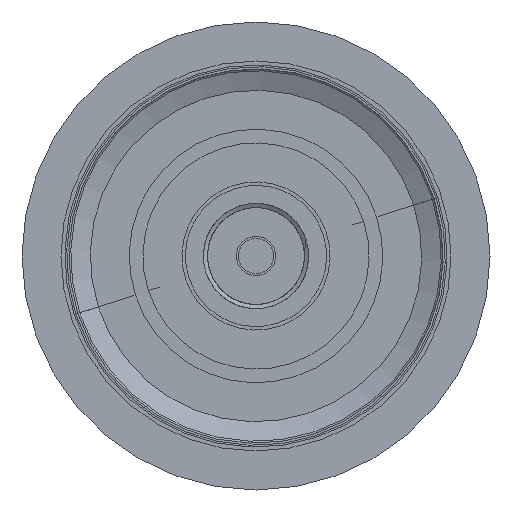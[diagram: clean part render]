
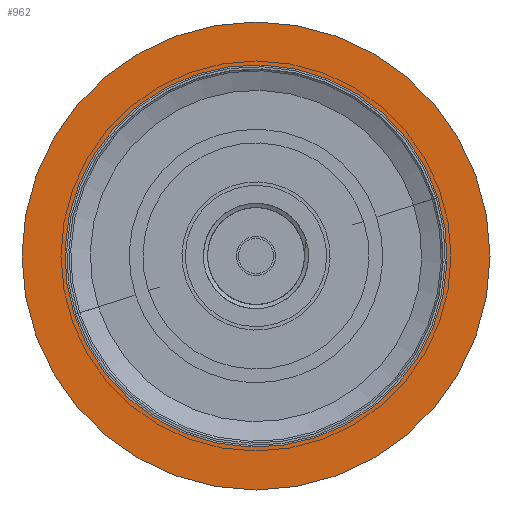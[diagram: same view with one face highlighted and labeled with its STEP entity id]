
A CAD part, front view. The second image highlights one B-rep face of the part: STEP entity #962.
In plain terms, the highlighted planar face has unit normal (0, -1, 0).
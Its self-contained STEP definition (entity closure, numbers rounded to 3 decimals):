
#49 = CARTESIAN_POINT ( 'NONE',  ( 0., -2., 0. ) ) ;
#194 = DIRECTION ( 'NONE',  ( 0., -1., 0. ) ) ;
#294 = AXIS2_PLACEMENT_3D ( 'NONE', #49, #3458, #2623 ) ;
#301 = VERTEX_POINT ( 'NONE', #2149 ) ;
#430 = CIRCLE ( 'NONE', #2901, 60. ) ;
#527 = CARTESIAN_POINT ( 'NONE',  ( 0., -2., 6. ) ) ;
#681 = EDGE_CURVE ( 'NONE', #2372, #301, #430, .T. ) ;
#695 = DIRECTION ( 'NONE',  ( 0., -1., 0. ) ) ;
#832 = VERTEX_POINT ( 'NONE', #527 ) ;
#878 = VERTEX_POINT ( 'NONE', #3718 ) ;
#897 = CARTESIAN_POINT ( 'NONE',  ( 0., -2., 60. ) ) ;
#909 = DIRECTION ( 'NONE',  ( 0., 0., -1. ) ) ;
#946 = PLANE ( 'NONE',  #1095 ) ;
#962 = ADVANCED_FACE ( 'NONE', ( #2959, #3282 ), #946, .T. ) ;
#964 = CIRCLE ( 'NONE', #3687, 6. ) ;
#979 = DIRECTION ( 'NONE',  ( 0., 0., -1. ) ) ;
#1056 = DIRECTION ( 'NONE',  ( 0., 0., -1. ) ) ;
#1095 = AXIS2_PLACEMENT_3D ( 'NONE', #3521, #695, #909 ) ;
#1103 = ORIENTED_EDGE ( 'NONE', *, *, #1330, .F. ) ;
#1273 = CARTESIAN_POINT ( 'NONE',  ( 0., -2., 0. ) ) ;
#1330 = EDGE_CURVE ( 'NONE', #878, #832, #3173, .T. ) ;
#1374 = DIRECTION ( 'NONE',  ( 0., 0., -1. ) ) ;
#1731 = EDGE_LOOP ( 'NONE', ( #2214, #1103 ) ) ;
#1923 = CARTESIAN_POINT ( 'NONE',  ( 0., -2., 0. ) ) ;
#2149 = CARTESIAN_POINT ( 'NONE',  ( 0., -2., -60. ) ) ;
#2214 = ORIENTED_EDGE ( 'NONE', *, *, #2456, .F. ) ;
#2372 = VERTEX_POINT ( 'NONE', #897 ) ;
#2456 = EDGE_CURVE ( 'NONE', #832, #878, #964, .T. ) ;
#2494 = DIRECTION ( 'NONE',  ( 0., -1., 0. ) ) ;
#2623 = DIRECTION ( 'NONE',  ( 0., 0., -1. ) ) ;
#2628 = AXIS2_PLACEMENT_3D ( 'NONE', #2712, #194, #979 ) ;
#2712 = CARTESIAN_POINT ( 'NONE',  ( 0., -2., 0. ) ) ;
#2735 = ORIENTED_EDGE ( 'NONE', *, *, #3049, .T. ) ;
#2901 = AXIS2_PLACEMENT_3D ( 'NONE', #1273, #2494, #1056 ) ;
#2959 = FACE_BOUND ( 'NONE', #1731, .T. ) ;
#3013 = ORIENTED_EDGE ( 'NONE', *, *, #681, .T. ) ;
#3049 = EDGE_CURVE ( 'NONE', #301, #2372, #3559, .T. ) ;
#3061 = DIRECTION ( 'NONE',  ( 0., -1., 0. ) ) ;
#3173 = CIRCLE ( 'NONE', #2628, 6. ) ;
#3213 = EDGE_LOOP ( 'NONE', ( #3013, #2735 ) ) ;
#3282 = FACE_OUTER_BOUND ( 'NONE', #3213, .T. ) ;
#3458 = DIRECTION ( 'NONE',  ( 0., -1., 0. ) ) ;
#3521 = CARTESIAN_POINT ( 'NONE',  ( 0., -2., 0. ) ) ;
#3559 = CIRCLE ( 'NONE', #294, 60. ) ;
#3687 = AXIS2_PLACEMENT_3D ( 'NONE', #1923, #3061, #1374 ) ;
#3718 = CARTESIAN_POINT ( 'NONE',  ( 0., -2., -6. ) ) ;
